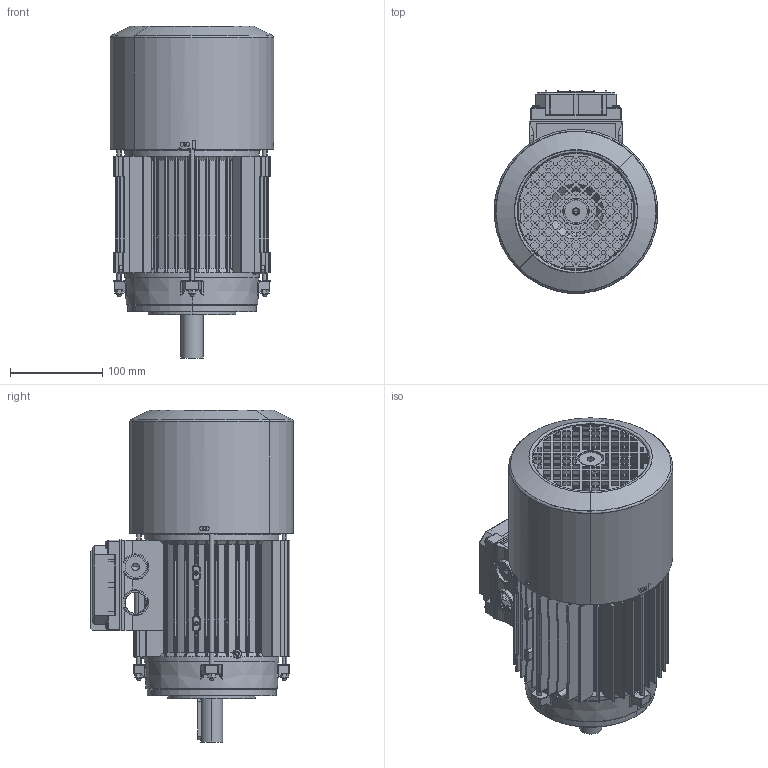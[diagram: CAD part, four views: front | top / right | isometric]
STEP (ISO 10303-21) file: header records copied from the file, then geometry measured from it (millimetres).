
FILE_DESCRIPTION (( 'STEP AP214' ), '1' );
FILE_NAME ('M14EC0011.STEP', '2019-09-06T08:01:59', ( '' ), ( '' ), 'SwSTEP 2.0', 'SolidWorks 2018', '' );
FILE_SCHEMA (( 'AUTOMOTIVE_DESIGN' ));
Length unit declared in the file: millimetre
Products named in the file (13): Coperchio per Scatola Singola 90 - 100 - 112 con viti; Guarnizione Coperchio Semplice Scatola BA 90 100 112 - DDAL0094; Vite  a testa bombata M4x16; Coperchio per Scatola Singola 90 - 100 - 112; Dado M5; Tirante SM 90S; Chiavetta 90; Albero BM 90 S; Cuffia BM 90- DDAS0197; Scudo Lato Freno BM 90 P1; Scudo a flangia B14 BA-BM 90 - DDAC0094; Carcassa 90 S B5; M14EC0011
Assembly tree (21 placements, depth 3):
  M14EC0011
    Carcassa 90 S B5
    Scudo a flangia B14 BA-BM 90 - DDAC0094
    Scudo Lato Freno BM 90 P1
    Cuffia BM 90- DDAS0197
    Albero BM 90 S
    Chiavetta 90
    Tirante SM 90S  x4
    Dado M5  x4
    Coperchio per Scatola Singola 90 - 100 - 112 con viti
      Coperchio per Scatola Singola 90 - 100 - 112
      Vite  a testa bombata M4x16  x4
      Guarnizione Coperchio Semplice Scatola BA 90 100 112 - DDAL0094
Bounding box: 177.91 x 220.46 x 360.5 mm (x, y, z)
Volume: 1181670.8 mm3; surface area: 715040.8 mm2
Topology: 24 solids, 24 shells, 3309 faces, 8918 edges, 5664 vertices
Faces by surface type: plane 1299, cylinder 1233, torus 323, cone 269, bspline 175, sphere 10
Entity records: 107938 total; most frequent: CARTESIAN_POINT 32178, ORIENTED_EDGE 16220, DIRECTION 15140, EDGE_CURVE 8110, AXIS2_PLACEMENT_3D 5594, VERTEX_POINT 5208, LINE 3952, VECTOR 3952
